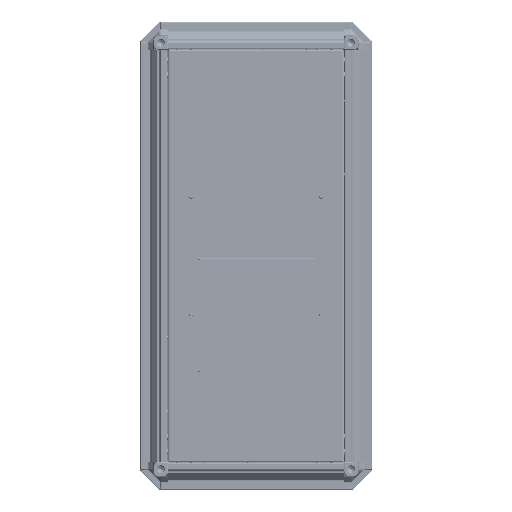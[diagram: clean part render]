
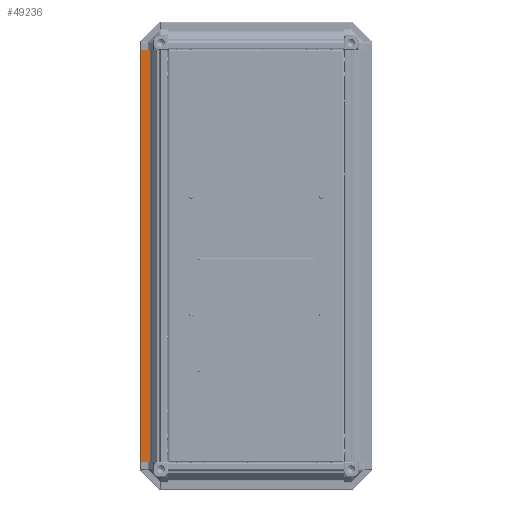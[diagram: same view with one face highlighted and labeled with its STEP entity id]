
A CAD part, front view. The second image highlights one B-rep face of the part: STEP entity #49236.
In plain terms, the highlighted planar face has unit normal (0, -1, 0) as drawn and (0.707, -0.707, 0) by its records, which use the part's own axes.
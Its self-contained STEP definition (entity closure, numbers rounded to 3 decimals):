
#189 = CARTESIAN_POINT ( 'NONE',  ( -22.386, -7.932, 0. ) ) ;
#251 = ORIENTED_EDGE ( 'NONE', *, *, #46948, .F. ) ;
#2038 = CARTESIAN_POINT ( 'NONE',  ( -22.386, -7.932, 698. ) ) ;
#3659 = LINE ( 'NONE', #4575, #39834 ) ;
#4575 = CARTESIAN_POINT ( 'NONE',  ( -22.386, -7.932, 698. ) ) ;
#5053 = VECTOR ( 'NONE', #24750, 1000. ) ;
#8321 = ORIENTED_EDGE ( 'NONE', *, *, #45387, .T. ) ;
#11920 = VECTOR ( 'NONE', #16705, 1000. ) ;
#12337 = LINE ( 'NONE', #2038, #11920 ) ;
#14170 = EDGE_CURVE ( 'NONE', #35462, #24857, #16224, .T. ) ;
#15596 = CARTESIAN_POINT ( 'NONE',  ( -22.386, -7.932, 698. ) ) ;
#16224 = LINE ( 'NONE', #21222, #43969 ) ;
#16705 = DIRECTION ( 'NONE',  ( 0.707, 0.707, 0. ) ) ;
#19138 = CARTESIAN_POINT ( 'NONE',  ( -12.747, 1.707, 698. ) ) ;
#20056 = AXIS2_PLACEMENT_3D ( 'NONE', #15596, #29971, #48992 ) ;
#20269 = FACE_OUTER_BOUND ( 'NONE', #24603, .T. ) ;
#21222 = CARTESIAN_POINT ( 'NONE',  ( -22.386, -7.932, 0. ) ) ;
#24603 = EDGE_LOOP ( 'NONE', ( #39218, #40786, #251, #8321 ) ) ;
#24750 = DIRECTION ( 'NONE',  ( 0., 0., -1. ) ) ;
#24857 = VERTEX_POINT ( 'NONE', #53751 ) ;
#29128 = LINE ( 'NONE', #19138, #5053 ) ;
#29828 = CARTESIAN_POINT ( 'NONE',  ( -22.386, -7.932, 698. ) ) ;
#29971 = DIRECTION ( 'NONE',  ( -0.707, 0.707, 0. ) ) ;
#35462 = VERTEX_POINT ( 'NONE', #189 ) ;
#39218 = ORIENTED_EDGE ( 'NONE', *, *, #14170, .T. ) ;
#39834 = VECTOR ( 'NONE', #47660, 1000. ) ;
#40786 = ORIENTED_EDGE ( 'NONE', *, *, #48633, .F. ) ;
#43969 = VECTOR ( 'NONE', #54301, 1000. ) ;
#45387 = EDGE_CURVE ( 'NONE', #49569, #35462, #3659, .T. ) ;
#45432 = CARTESIAN_POINT ( 'NONE',  ( -12.747, 1.707, 698. ) ) ;
#46948 = EDGE_CURVE ( 'NONE', #49569, #47000, #12337, .T. ) ;
#47000 = VERTEX_POINT ( 'NONE', #45432 ) ;
#47660 = DIRECTION ( 'NONE',  ( 0., 0., -1. ) ) ;
#48633 = EDGE_CURVE ( 'NONE', #47000, #24857, #29128, .T. ) ;
#48992 = DIRECTION ( 'NONE',  ( -0.707, -0.707, 0. ) ) ;
#49236 = ADVANCED_FACE ( 'NONE', ( #20269 ), #58354, .F. ) ;
#49569 = VERTEX_POINT ( 'NONE', #29828 ) ;
#53751 = CARTESIAN_POINT ( 'NONE',  ( -12.747, 1.707, 0. ) ) ;
#54301 = DIRECTION ( 'NONE',  ( 0.707, 0.707, 0. ) ) ;
#58354 = PLANE ( 'NONE',  #20056 ) ;
